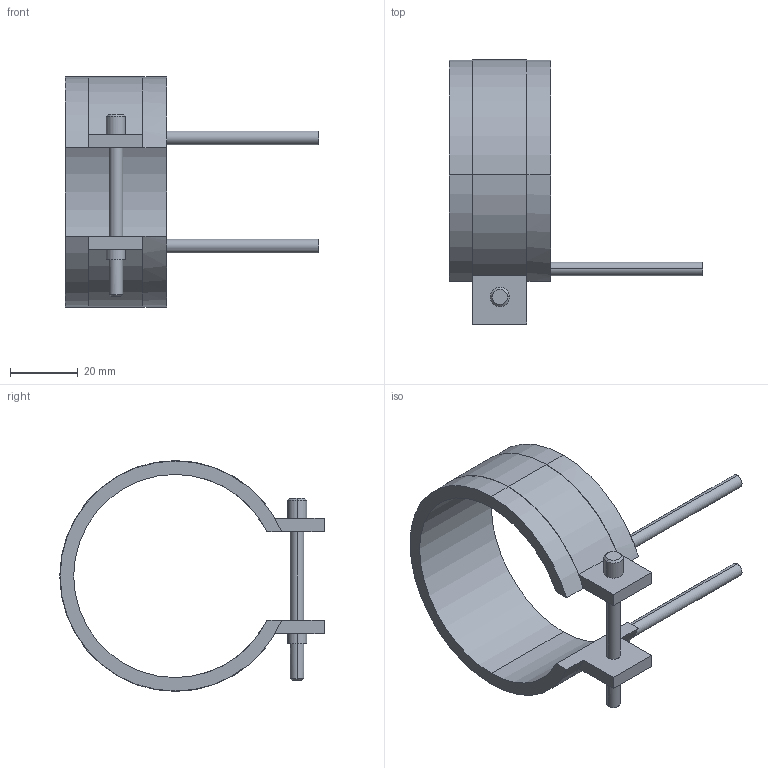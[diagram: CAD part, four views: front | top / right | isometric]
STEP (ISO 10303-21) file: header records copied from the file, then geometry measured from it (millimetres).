
FILE_DESCRIPTION(('CATIA V5 STEP Exchange'),'2;1');
FILE_NAME('C:\Users\Utente\Desktop\IO LAVORO\3D X SITO CF\X SITO\PLASTICA\RF2\14060030.stp','2021-04-01T09:31:11+00:00',('none'),('none'),'CATIA Version 5 Release 20 GA (IN-10)','CATIA V5 STEP AP203','none');
FILE_SCHEMA(('CONFIG_CONTROL_DESIGN'));
Length unit declared in the file: millimetre
Products named in the file (1): 14060030
Bounding box: 75 x 78.1 x 68.2 mm (x, y, z)
Volume: 24751 mm3; surface area: 14946.4 mm2
Topology: 1 solids, 1 shells, 45 faces, 116 edges, 76 vertices
Faces by surface type: cylinder 24, plane 17, cone 4
Entity records: 1406 total; most frequent: CARTESIAN_POINT 280, ORIENTED_EDGE 232, DIRECTION 196, EDGE_CURVE 116, AXIS2_PLACEMENT_3D 104, VERTEX_POINT 76, CIRCLE 62, VECTOR 52
